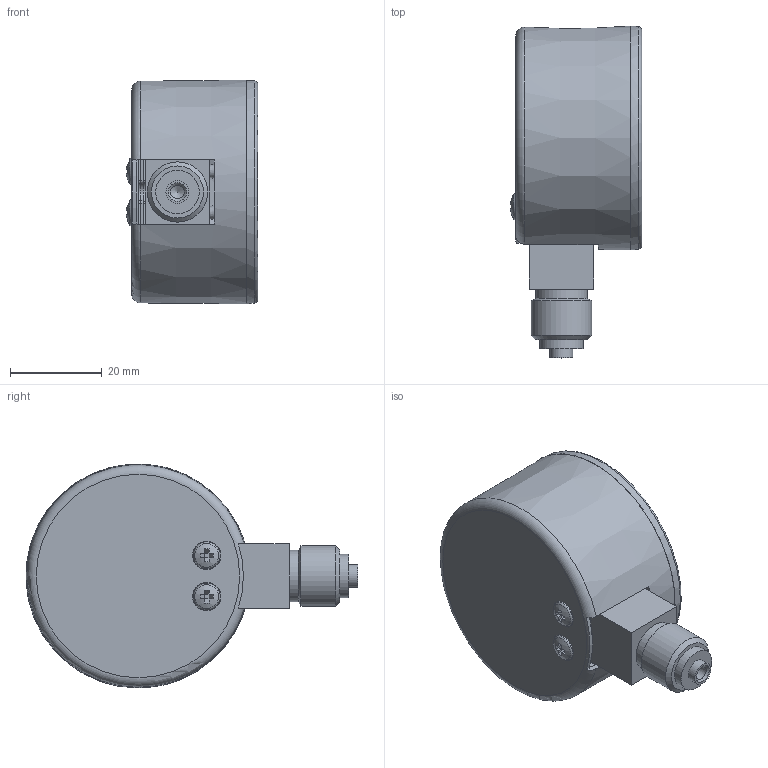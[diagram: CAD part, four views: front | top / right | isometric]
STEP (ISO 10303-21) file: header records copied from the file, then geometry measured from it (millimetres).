
FILE_DESCRIPTION(/* description */ (''),/* implementation_level */ '2;1');
FILE_NAME(/* name */ 'I:\Engineering\BGPL\Technical_Documentation\Drawings\3D_GAUGES\M1-50 ABS\M1-50 ABS\M1-50 ABS_step.stp',/* time_stamp */ '2017-10-02T11:40:04+03:00',/* author */ ('aleksaim'),/* organization */ (''),/* preprocessor_version */ 'ST-DEVELOPER v16.13',/* originating_system */ 'Autodesk Inventor 2018',/* authorisation */ '');
FILE_SCHEMA (('AUTOMOTIVE_DESIGN { 1 0 10303 214 3 1 1 }'));
Length unit declared in the file: millimetre
Products named in the file (8): M3A-50 ABS; MCASABS00702; Part1; MMINACC022; MMINOTT016; MQUAALL103_3d; MPEROTT136; 000280503854_0
Assembly tree (9 placements, depth 2):
  M3A-50 ABS
    MCASABS00702
    Part1
    MMINACC022  x2
    MMINOTT016  x2
    MQUAALL103_3d
    MPEROTT136
    000280503854_0
Bounding box: 28.65 x 72.42 x 48.8 mm (x, y, z)
Volume: 17055.6 mm3; surface area: 22397.5 mm2
Topology: 9 solids, 9 shells, 551 faces, 1368 edges, 888 vertices
Faces by surface type: plane 323, bspline 99, cylinder 70, cone 33, torus 20, sphere 6
Full cylindrical faces by diameter (mm): 2 x4, 2.2 x2, 2.459 x2, 2.5 x2, 2.6 x2, 2.7 x2, 2.8 x2, 3 x5, 3.2 x2, 5 x4, 6.2 x2, 6.3 x1, 9.5 x1, 11.2 x1, 13.157 x1, 44 x1, 45.4 x1, 46.5 x1
Entity records: 16371 total; most frequent: CARTESIAN_POINT 4056, ORIENTED_EDGE 2468, DIRECTION 2123, EDGE_CURVE 1234, VERTEX_POINT 839, LINE 793, VECTOR 793, AXIS2_PLACEMENT_3D 665
